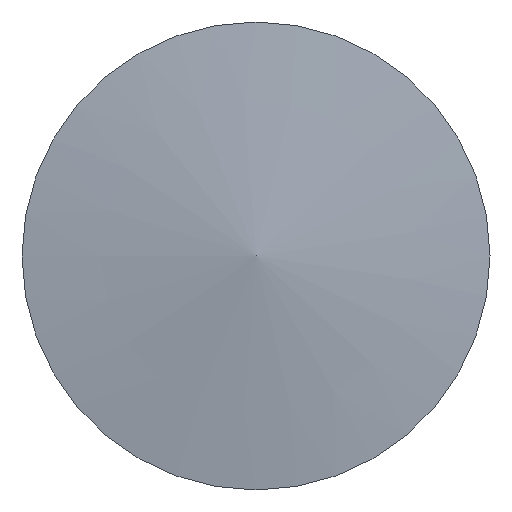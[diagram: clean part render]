
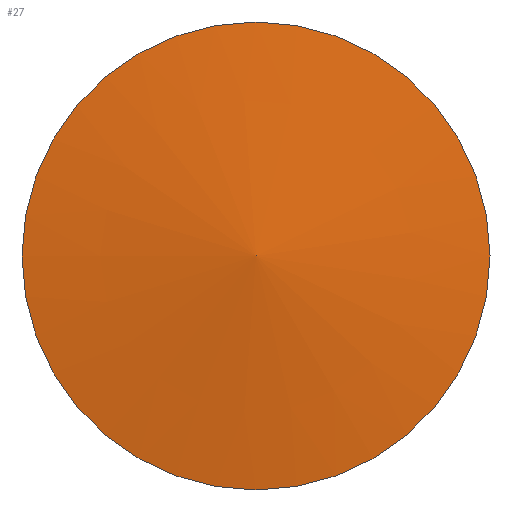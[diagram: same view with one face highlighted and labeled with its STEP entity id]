
A CAD part, top view. The second image highlights one B-rep face of the part: STEP entity #27.
In plain terms, the highlighted conical face has half-angle 82.99 degrees and reference radius 4.589 mm.
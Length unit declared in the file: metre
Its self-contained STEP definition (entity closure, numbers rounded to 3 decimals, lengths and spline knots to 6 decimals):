
#12=VERTEX_LOOP('',#18);
#13=CONICAL_SURFACE('',#35,0.004589,1.448);
#15=ORIENTED_EDGE('',*,*,#16,.F.);
#16=EDGE_CURVE('',#17,#17,#19,.T.);
#17=VERTEX_POINT('',#47);
#18=VERTEX_POINT('',#49);
#19=CIRCLE('',#34,0.004589);
#21=EDGE_LOOP('',(#15));
#23=FACE_BOUND('',#21,.T.);
#24=FACE_BOUND('',#12,.T.);
#27=ADVANCED_FACE('',(#23,#24),#13,.T.);
#34=AXIS2_PLACEMENT_3D('',#46,#40,#41);
#35=AXIS2_PLACEMENT_3D('',#48,#42,#43);
#40=DIRECTION('',(0.,0.,-1.));
#41=DIRECTION('',(0.,1.,0.));
#42=DIRECTION('',(0.,0.,-1.));
#43=DIRECTION('',(-1.,0.,0.));
#46=CARTESIAN_POINT('',(-0.004,-0.055006,0.005942));
#47=CARTESIAN_POINT('',(-0.004,-0.050417,0.005942));
#48=CARTESIAN_POINT('',(-0.004,-0.055006,0.005942));
#49=CARTESIAN_POINT('',(-0.004,-0.055006,0.006506));
